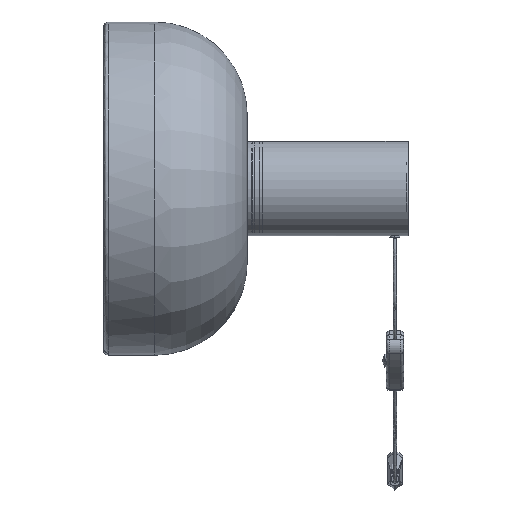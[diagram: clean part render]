
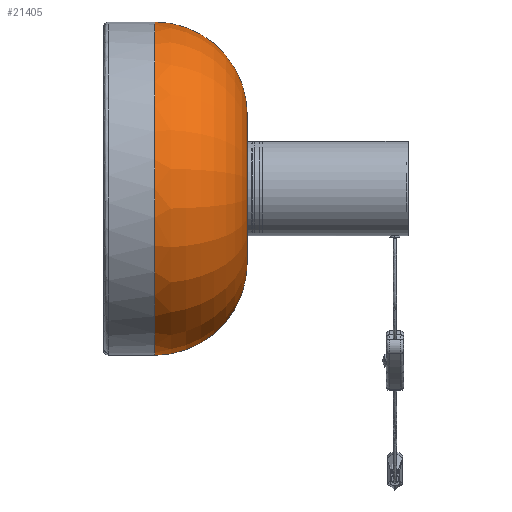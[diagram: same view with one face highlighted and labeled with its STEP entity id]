
A CAD part, left-side view. The second image highlights one B-rep face of the part: STEP entity #21405.
In plain terms, the highlighted toroidal (fillet/blend) face has major radius 66.667 mm and minor radius 83.333 mm.
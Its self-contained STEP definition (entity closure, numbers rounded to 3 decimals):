
#446 = DIRECTION ( 'NONE',  ( 0., 0., -1. ) ) ;
#565 = CARTESIAN_POINT ( 'NONE',  ( 0., 145.5, 66.667 ) ) ;
#625 = DIRECTION ( 'NONE',  ( 0., 0., 1. ) ) ;
#1236 = DIRECTION ( 'NONE',  ( 0., 1., 0. ) ) ;
#3692 = EDGE_LOOP ( 'NONE', ( #21886, #17381, #17238, #22301 ) ) ;
#4805 = AXIS2_PLACEMENT_3D ( 'NONE', #19580, #1236, #8375 ) ;
#5538 = AXIS2_PLACEMENT_3D ( 'NONE', #12126, #11470, #17805 ) ;
#5995 = CIRCLE ( 'NONE', #19520, 83.333 ) ;
#6057 = DIRECTION ( 'NONE',  ( 1., 0., 0. ) ) ;
#6557 = DIRECTION ( 'NONE',  ( -1., 0., 0. ) ) ;
#8375 = DIRECTION ( 'NONE',  ( 0., 0., 1. ) ) ;
#8553 = CARTESIAN_POINT ( 'NONE',  ( 0., 228.833, 0. ) ) ;
#9509 = CARTESIAN_POINT ( 'NONE',  ( 0., 228.833, 150. ) ) ;
#10030 = VERTEX_POINT ( 'NONE', #22915 ) ;
#10881 = EDGE_CURVE ( 'NONE', #15629, #24279, #12265, .T. ) ;
#11265 = VERTEX_POINT ( 'NONE', #9509 ) ;
#11470 = DIRECTION ( 'NONE',  ( 0., 1., 0. ) ) ;
#11807 = AXIS2_PLACEMENT_3D ( 'NONE', #8553, #17947, #19915 ) ;
#12126 = CARTESIAN_POINT ( 'NONE',  ( 0., 145.5, 0. ) ) ;
#12209 = EDGE_CURVE ( 'NONE', #15629, #10030, #14603, .T. ) ;
#12265 = CIRCLE ( 'NONE', #5538, 66.667 ) ;
#13367 = EDGE_CURVE ( 'NONE', #11265, #10030, #24272, .T. ) ;
#13884 = TOROIDAL_SURFACE ( 'NONE', #4805, 66.667, 83.333 ) ;
#14603 = CIRCLE ( 'NONE', #19049, 83.333 ) ;
#15629 = VERTEX_POINT ( 'NONE', #17363 ) ;
#15667 = FACE_OUTER_BOUND ( 'NONE', #3692, .T. ) ;
#17238 = ORIENTED_EDGE ( 'NONE', *, *, #21767, .T. ) ;
#17250 = CARTESIAN_POINT ( 'NONE',  ( 0., 228.833, -66.667 ) ) ;
#17363 = CARTESIAN_POINT ( 'NONE',  ( 0., 145.5, -66.667 ) ) ;
#17381 = ORIENTED_EDGE ( 'NONE', *, *, #10881, .T. ) ;
#17488 = CARTESIAN_POINT ( 'NONE',  ( 0., 228.833, 66.667 ) ) ;
#17805 = DIRECTION ( 'NONE',  ( 0., 0., 1. ) ) ;
#17947 = DIRECTION ( 'NONE',  ( 0., -1., 0. ) ) ;
#19049 = AXIS2_PLACEMENT_3D ( 'NONE', #17250, #6057, #446 ) ;
#19520 = AXIS2_PLACEMENT_3D ( 'NONE', #17488, #6557, #625 ) ;
#19580 = CARTESIAN_POINT ( 'NONE',  ( 0., 228.833, 0. ) ) ;
#19915 = DIRECTION ( 'NONE',  ( 0., 0., -1. ) ) ;
#21405 = ADVANCED_FACE ( 'NONE', ( #15667 ), #13884, .T. ) ;
#21767 = EDGE_CURVE ( 'NONE', #24279, #11265, #5995, .T. ) ;
#21886 = ORIENTED_EDGE ( 'NONE', *, *, #12209, .F. ) ;
#22301 = ORIENTED_EDGE ( 'NONE', *, *, #13367, .T. ) ;
#22915 = CARTESIAN_POINT ( 'NONE',  ( 0., 228.833, -150. ) ) ;
#24272 = CIRCLE ( 'NONE', #11807, 150. ) ;
#24279 = VERTEX_POINT ( 'NONE', #565 ) ;
